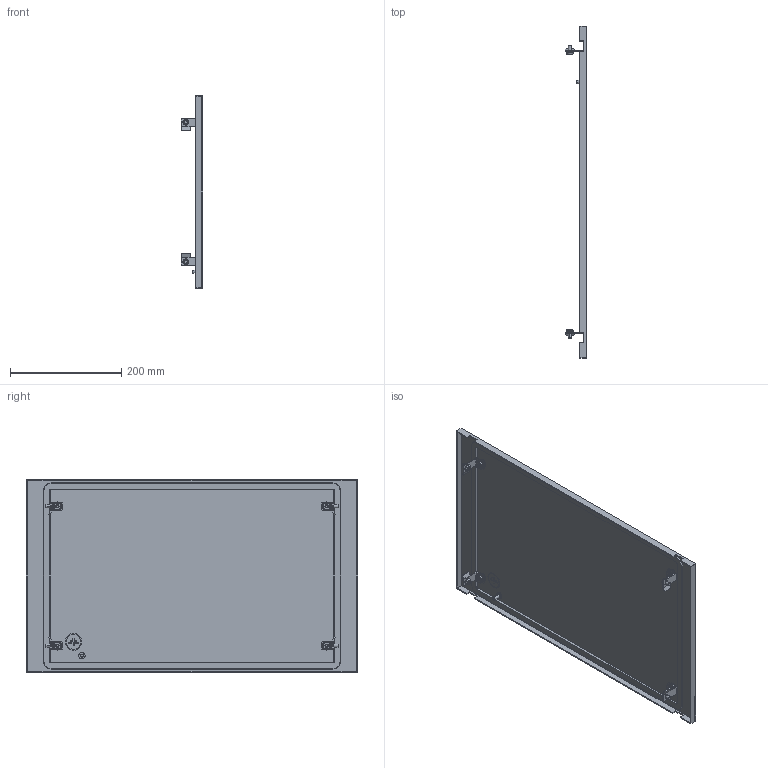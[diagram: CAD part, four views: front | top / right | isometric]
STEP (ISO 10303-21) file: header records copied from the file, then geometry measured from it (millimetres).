
FILE_DESCRIPTION (( 'STEP AP214' ), '1' );
FILE_NAME ('FO-00-PWSB-035-060 Ôàëüø-ïàíåëü âíåøíÿÿ ãëóõàÿ 350õ600 ìì.STEP', '2025-08-25T08:08:55', ( '' ), ( '' ), 'SwSTEP 2.0', 'SolidWorks 2023', '' );
FILE_SCHEMA (( 'AUTOMOTIVE_DESIGN' ));
Length unit declared in the file: millimetre
Products named in the file (1): FO-00-PWSB-035-060 Фальш-панель внешняя глухая 350х600 мм
Bounding box: 38.5 x 595 x 346 mm (x, y, z)
Volume: 521173 mm3; surface area: 476414.7 mm2
Topology: 1 solids, 10 shells, 846 faces, 2093 edges, 1287 vertices
Faces by surface type: plane 530, cylinder 202, cone 90, torus 24
Entity records: 25304 total; most frequent: CARTESIAN_POINT 4881, DIRECTION 4361, ORIENTED_EDGE 4182, EDGE_CURVE 2091, AXIS2_PLACEMENT_3D 1487, VECTOR 1387, LINE 1387, VERTEX_POINT 1287
